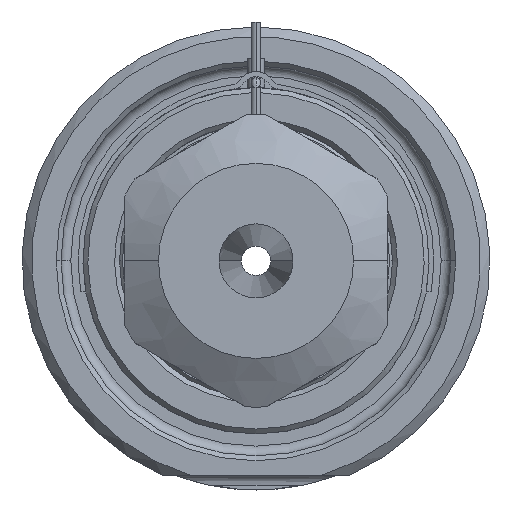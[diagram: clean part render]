
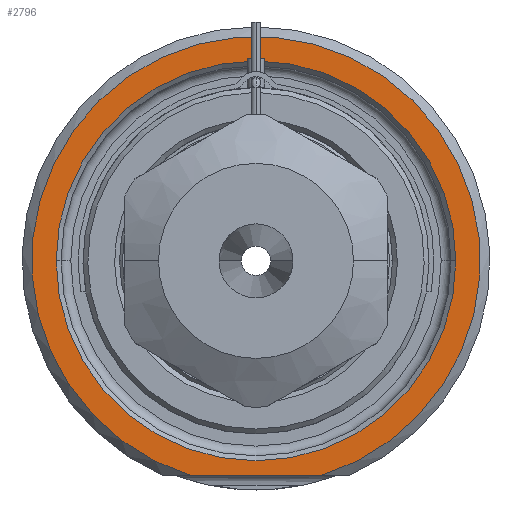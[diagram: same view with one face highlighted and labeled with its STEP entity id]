
A CAD part, front view. The second image highlights one B-rep face of the part: STEP entity #2796.
In plain terms, the highlighted planar face has unit normal (0, -1, 0).
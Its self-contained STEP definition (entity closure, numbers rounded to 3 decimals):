
#1=DIRECTION('',(1.,0.,0.));
#2=VECTOR('',#1,13.416);
#3=CARTESIAN_POINT('',(-6.708,0.,-22.));
#4=LINE('',#3,#2);
#5=CARTESIAN_POINT('',(0.,0.,0.));
#6=DIRECTION('',(0.,1.,0.));
#7=DIRECTION('',(-1.,0.,0.));
#8=AXIS2_PLACEMENT_3D('',#5,#6,#7);
#10=CARTESIAN_POINT('',(0.,0.,0.));
#11=DIRECTION('',(0.,1.,0.));
#12=DIRECTION('',(1.,0.,0.));
#13=AXIS2_PLACEMENT_3D('',#10,#11,#12);
#121=CARTESIAN_POINT('',(0.,0.,0.));
#122=DIRECTION('',(0.,-1.,0.));
#123=DIRECTION('',(0.292,0.,-0.957));
#124=AXIS2_PLACEMENT_3D('',#121,#122,#123);
#2336=CARTESIAN_POINT('',(-20.5,0.,0.));
#2337=CARTESIAN_POINT('',(20.5,0.,0.));
#2338=VERTEX_POINT('',#2336);
#2339=VERTEX_POINT('',#2337);
#2376=CARTESIAN_POINT('',(-6.708,0.,-22.));
#2377=CARTESIAN_POINT('',(6.708,0.,-22.));
#2378=VERTEX_POINT('',#2376);
#2379=VERTEX_POINT('',#2377);
#2779=CARTESIAN_POINT('',(0.,0.,0.));
#2780=DIRECTION('',(0.,-1.,0.));
#2781=DIRECTION('',(1.,0.,0.));
#2782=AXIS2_PLACEMENT_3D('',#2779,#2780,#2781);
#2783=PLANE('',#2782);
#2785=ORIENTED_EDGE('',*,*,#2784,.F.);
#2787=ORIENTED_EDGE('',*,*,#2786,.F.);
#2788=EDGE_LOOP('',(#2785,#2787));
#2789=FACE_OUTER_BOUND('',#2788,.F.);
#2791=ORIENTED_EDGE('',*,*,#2790,.F.);
#2793=ORIENTED_EDGE('',*,*,#2792,.F.);
#2794=EDGE_LOOP('',(#2791,#2793));
#2795=FACE_BOUND('',#2794,.F.);
#2796=ADVANCED_FACE('',(#2789,#2795),#2783,.T.);
#9=CIRCLE('',#8,20.5);
#14=CIRCLE('',#13,20.5);
#125=CIRCLE('',#124,23.);
#2784=EDGE_CURVE('',#2378,#2379,#4,.T.);
#2786=EDGE_CURVE('',#2379,#2378,#125,.T.);
#2790=EDGE_CURVE('',#2338,#2339,#9,.T.);
#2792=EDGE_CURVE('',#2339,#2338,#14,.T.);
